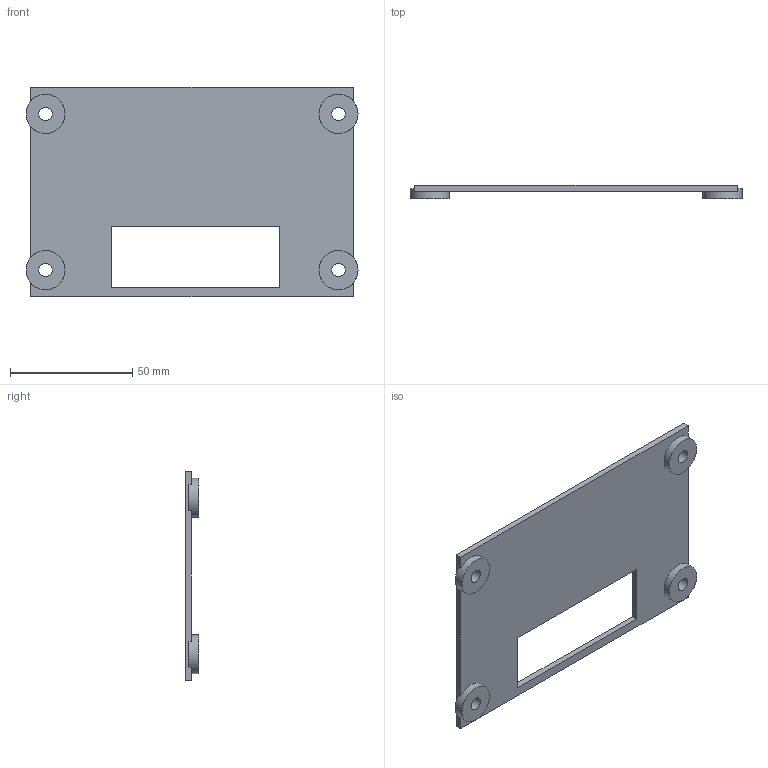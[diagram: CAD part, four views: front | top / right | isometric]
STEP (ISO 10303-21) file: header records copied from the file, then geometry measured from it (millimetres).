
FILE_DESCRIPTION(('Open CASCADE Model'),'2;1');
FILE_NAME('Open CASCADE Shape Model','2026-10-13T15:24:31',('Author'),( 'Open CASCADE'),'Open CASCADE STEP processor 8.0','build123d', 'Unknown');
FILE_SCHEMA(('AUTOMOTIVE_DESIGN { 1 0 10303 214 1 1 1 1 }'));
Length unit declared in the file: millimetre
Products named in the file (1): COMPOUND
Bounding box: 136 x 5.5 x 86 mm (x, y, z)
Volume: 26015.6 mm3; surface area: 21727.2 mm2
Topology: 1 solids, 1 shells, 26 faces, 72 edges, 48 vertices
Faces by surface type: plane 18, cylinder 8
Full cylindrical faces by diameter (mm): 5.5 x4, 16 x4
Entity records: 1796 total; most frequent: CARTESIAN_POINT 391, DIRECTION 244, ORIENTED_EDGE 144, PCURVE 144, DEFINITIONAL_REPRESENTATION 144, LINE 128, VECTOR 128, EDGE_CURVE 72
